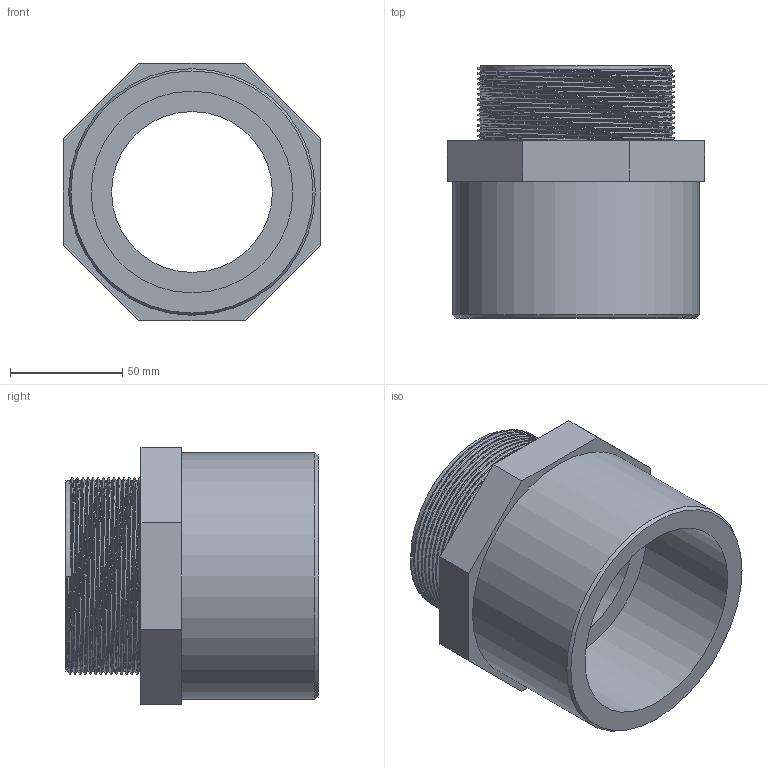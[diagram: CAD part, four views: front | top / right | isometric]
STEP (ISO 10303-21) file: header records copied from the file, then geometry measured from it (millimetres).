
FILE_DESCRIPTION(/* description */ ('PVC adattatore incollaggio-filettatura BSP maschio'),/* implementation_level */ '2;1');
FILE_NAME(/* name */ 'C:\Users\POLYPIPE\Desktop\DATASET INVENTOR\LIBRERIA EFFAST\RACCORDI 3DxWEB\RGR\3D_RGRAMG\3D_RGRAMG090I.stp',/* time_stamp */ '2018-01-19T17:37:32+01:00',/* author */ ('POLYPIPE'),/* organization */ ('Polypipe Italia s.r.l.'),/* preprocessor_version */ 'ST-DEVELOPER v16.1',/* originating_system */ 'Autodesk Inventor 2016',/* authorisation */ '');
FILE_SCHEMA (('CONFIG_CONTROL_DESIGN'));
Length unit declared in the file: millimetre
Products named in the file (1): 3D_RGRAMG
Bounding box: 115 x 112.5 x 115 mm (x, y, z)
Volume: 395254.1 mm3; surface area: 85071.8 mm2
Topology: 1 solids, 1 shells, 26 faces, 56 edges, 36 vertices
Faces by surface type: plane 15, cylinder 5, bspline 5, cone 1
Full cylindrical faces by diameter (mm): 71.7 x1, 72.7 x1, 84.926 x1, 90 x1, 110 x1
Entity records: 5977 total; most frequent: CARTESIAN_POINT 5424, ORIENTED_EDGE 102, DIRECTION 97, EDGE_CURVE 51, EDGE_LOOP 37, VERTEX_POINT 36, AXIS2_PLACEMENT_3D 35, LINE 27
